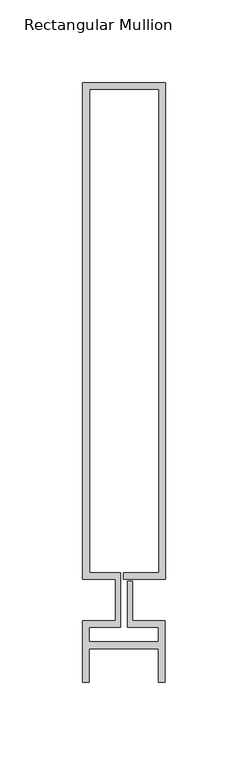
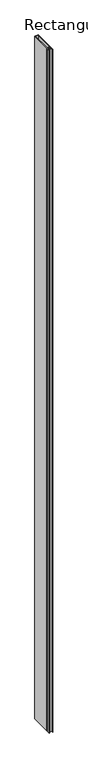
"""IFC4 building model written with IfcOpenShell, lengths in millimetres: member geometry, Rectangular Mullion : Reynaers_CW-50_Mullion-Transom_Vertical_300.5mm_Facecap-03."""

from ifc_helpers import new_model, si_unit, frame, origin, place, context, project, spatial, polyline, outline, extrude, source, transform, mapped, element, save


def rectangular_mullion_7aba0d7b(model_context):
    return source(origin(), model_context, "Body", "SweptSolid", [
        extrude(outline(polyline([(-24.8004059, 313.0), (25.1995941, 313.0), (25.1995941, 12.5), (0.0, 12.5), (0.0, 16.5), (21.1995941, 16.5), (21.1995941, 309.0), (-20.8004059, 309.0), (-20.8004059, 16.5), (-1.9004059, 16.5), (-1.9004059, -16.5), (-20.994845, -16.5), (-20.994845, -25.3268728), (20.994845, -25.3268728), (20.994845, -16.5), (2.2995941, -16.5), (2.2995941, 11.5), (5.2995941, 11.5), (5.2995941, -12.5), (24.994845, -12.5), (24.994845, -49.8), (20.994845, -49.8), (20.994845, -29.3268728), (-20.994845, -29.3268728), (-20.994845, -49.8), (-24.994845, -49.8), (-24.994845, -12.5), (-4.9004059, -12.5), (-4.9004059, 12.5), (-24.8004059, 12.5), (-24.8004059, 313.0)])), frame((0.0, 0.0, -10400.0), z_axis=(0.0, 0.0, 1.0), x_axis=(1.0, 0.0, 0.0)), (0.0, 0.0, 1.0), 10400.0),
    ])


if __name__ == "__main__":
    model = new_model("IFC4")
    model_context = context("Model", 3, world=origin())
    ifc_project = project(units=[si_unit("LENGTHUNIT", "METRE", prefix="MILLI")], contexts=[model_context])
    site = spatial("IfcSite", under=ifc_project)
    building = spatial("IfcBuilding", under=site)
    placement = place(None, origin())
    rectangular_mullion_shape = rectangular_mullion_7aba0d7b(model_context)
    element("IfcMember", 1, ObjectType="Rectangular Mullion : Reynaers_CW-50_Mullion-Transom_Vertical_300.5mm_Facecap-03", at=placement, inside=building, context=model_context, shape_type="MappedRepresentation", body=[
        mapped(rectangular_mullion_shape, transform((0.0, 0.0, 0.0), x_axis=(1.0, 0.0, 0.0), y_axis=(0.0, 1.0, 0.0), z_axis=(0.0, 0.0, 1.0))),
    ])
    save(model, "model.ifc")
